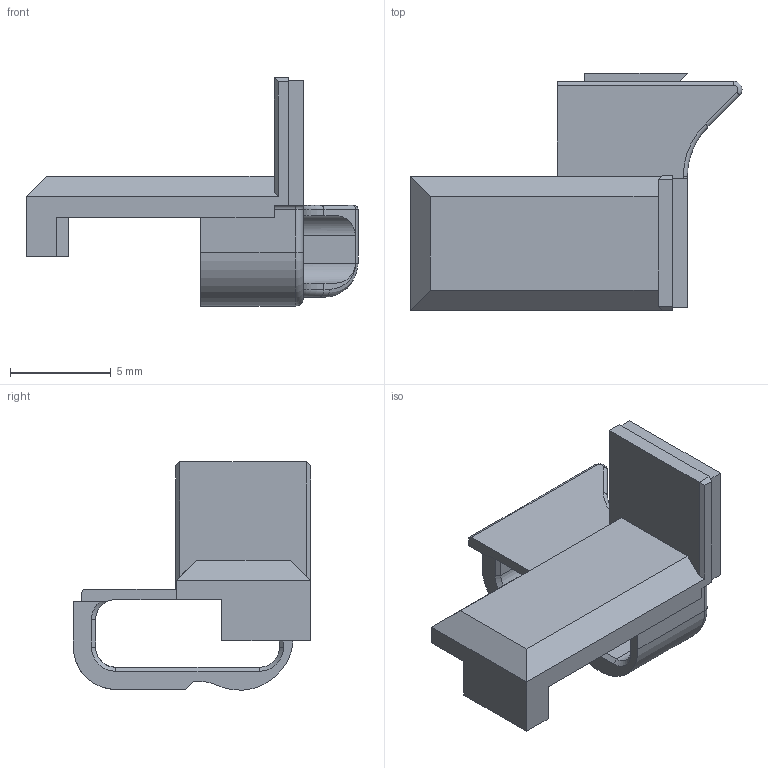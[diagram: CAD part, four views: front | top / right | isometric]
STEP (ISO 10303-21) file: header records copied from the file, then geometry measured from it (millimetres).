
FILE_DESCRIPTION(('STEP AP203'), '1');
FILE_NAME('upper', '2026-02-10T16:14:17', ('user'), (''), 'C3D Converter', 'C3D Toolkit', '');
FILE_SCHEMA(('CONFIG_CONTROL_DESIGN'));
Length unit declared in the file: millimetre
Bounding box: 16.48 x 11.77 x 11.32 mm (x, y, z)
Volume: 332.7 mm3; surface area: 636.1 mm2
Topology: 1 solids, 1 shells, 77 faces, 208 edges, 131 vertices
Faces by surface type: plane 48, cylinder 18, torus 6, cone 4, bspline 1
Entity records: 3136 total; most frequent: CARTESIAN_POINT 537, ORIENTED_EDGE 416, DIRECTION 399, EDGE_CURVE 208, LINE 153, VECTOR 153, VERTEX_POINT 131, AXIS2_PLACEMENT_3D 123
